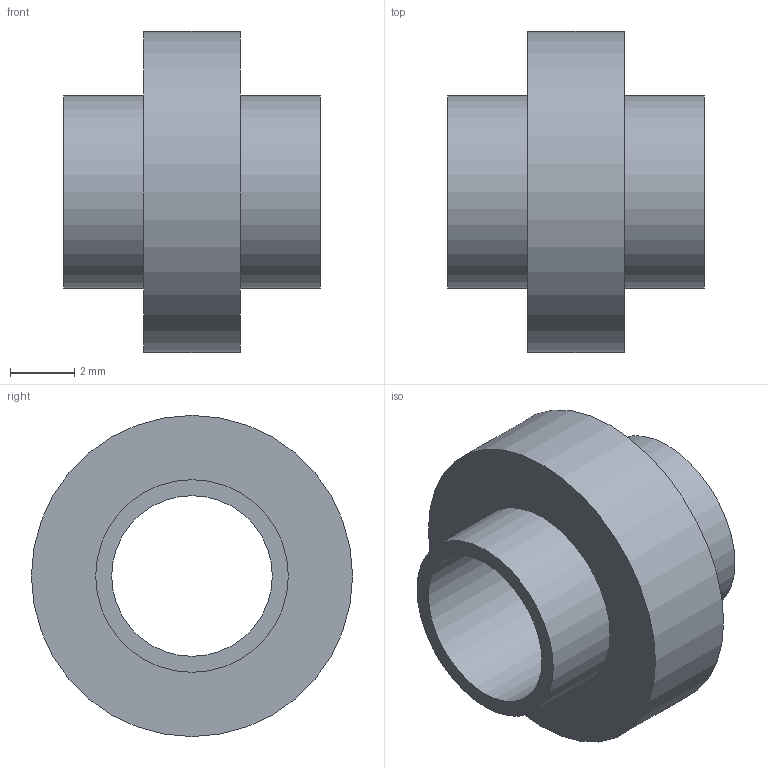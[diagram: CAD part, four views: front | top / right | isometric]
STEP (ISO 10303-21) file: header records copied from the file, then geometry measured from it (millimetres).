
FILE_DESCRIPTION(/* description */ ('STEP AP214'),/* implementation_level */ '2;1');
FILE_NAME(/* name */ 'Mounting Accessory GN 753.2-5-6-3-AB-NI',/* time_stamp */ '2024-12-09T13:59:48+01:00',/* author */ ('License CC BY-ND 4.0'),/* organization */ ('CADENAS'),/* preprocessor_version */ 'ST-DEVELOPER v19.3',/* originating_system */ 'PARTsolutions',/* authorisation */ ' ');
FILE_SCHEMA (('AUTOMOTIVE_DESIGN {1 0 10303 214 3 1 1}'));
Length unit declared in the file: millimetre
Products named in the file (1): Mounting Accessory GN 753.2-5-6-3-AB-NI
Bounding box: 8 x 10 x 10 mm (x, y, z)
Volume: 219.9 mm3; surface area: 432 mm2
Topology: 1 solids, 1 shells, 8 faces, 12 edges, 8 vertices
Faces by surface type: plane 4, cylinder 4
Full cylindrical faces by diameter (mm): 5 x1, 6 x2, 10 x1
Entity records: 198 total; most frequent: DIRECTION 34, CARTESIAN_POINT 25, AXIS2_PLACEMENT_3D 17, ORIENTED_EDGE 16, EDGE_LOOP 16, FACE_BOUND 16, EDGE_CURVE 8, VERTEX_POINT 8
